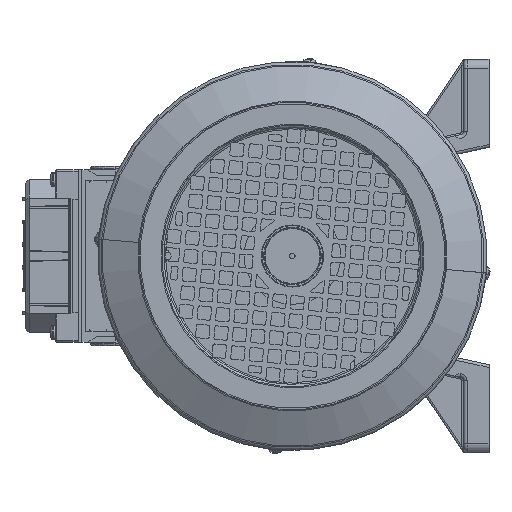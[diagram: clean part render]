
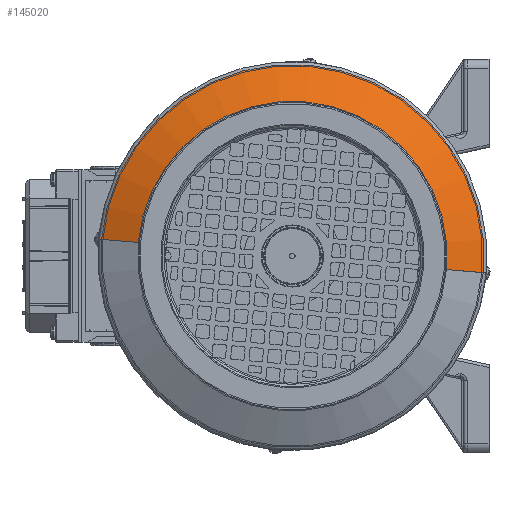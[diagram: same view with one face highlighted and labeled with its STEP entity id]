
A CAD part, left-side view. The second image highlights one B-rep face of the part: STEP entity #145020.
In plain terms, the highlighted conical face has half-angle 64 degrees and reference radius 109.115 mm.
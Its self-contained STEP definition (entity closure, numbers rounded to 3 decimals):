
#4429 = CONICAL_SURFACE ( 'NONE', #76793, 109.115, 1.117 ) ;
#5651 = CARTESIAN_POINT ( 'NONE',  ( 0., 10.542, 0. ) ) ;
#6416 = ORIENTED_EDGE ( 'NONE', *, *, #101948, .T. ) ;
#9227 = ORIENTED_EDGE ( 'NONE', *, *, #51879, .F. ) ;
#16903 = DIRECTION ( 'NONE',  ( 0., 1., 0. ) ) ;
#20602 = DIRECTION ( 'NONE',  ( -0.899, 0.438, 0. ) ) ;
#20919 = CARTESIAN_POINT ( 'NONE',  ( 0., 10.542, 0. ) ) ;
#24056 = VERTEX_POINT ( 'NONE', #74928 ) ;
#24820 = VECTOR ( 'NONE', #29874, 1000. ) ;
#28752 = VERTEX_POINT ( 'NONE', #126599 ) ;
#29874 = DIRECTION ( 'NONE',  ( 0.899, 0.438, 0. ) ) ;
#32196 = DIRECTION ( 'NONE',  ( -1., 0., 0. ) ) ;
#35795 = CARTESIAN_POINT ( 'NONE',  ( 0., 0.304, 0. ) ) ;
#36733 = VERTEX_POINT ( 'NONE', #50456 ) ;
#40996 = CARTESIAN_POINT ( 'NONE',  ( 109.115, 10.542, 0. ) ) ;
#45965 = VECTOR ( 'NONE', #20602, 1000. ) ;
#46993 = DIRECTION ( 'NONE',  ( -1., 0., 0. ) ) ;
#50456 = CARTESIAN_POINT ( 'NONE',  ( -88.123, 0.304, 0. ) ) ;
#50728 = VERTEX_POINT ( 'NONE', #40996 ) ;
#51879 = EDGE_CURVE ( 'NONE', #36733, #28752, #105568, .T. ) ;
#58065 = LINE ( 'NONE', #130288, #24820 ) ;
#60727 = CIRCLE ( 'NONE', #132729, 88.123 ) ;
#61361 = EDGE_CURVE ( 'NONE', #28752, #50728, #70452, .T. ) ;
#61954 = DIRECTION ( 'NONE',  ( -1., 0., 0. ) ) ;
#70452 = CIRCLE ( 'NONE', #101005, 109.115 ) ;
#74928 = CARTESIAN_POINT ( 'NONE',  ( 88.123, 0.304, 0. ) ) ;
#76793 = AXIS2_PLACEMENT_3D ( 'NONE', #5651, #16903, #61954 ) ;
#92451 = EDGE_CURVE ( 'NONE', #36733, #24056, #60727, .T. ) ;
#99273 = DIRECTION ( 'NONE',  ( 0., 1., 0. ) ) ;
#101005 = AXIS2_PLACEMENT_3D ( 'NONE', #20919, #99273, #32196 ) ;
#101948 = EDGE_CURVE ( 'NONE', #24056, #50728, #58065, .T. ) ;
#105568 = LINE ( 'NONE', #121500, #45965 ) ;
#114105 = DIRECTION ( 'NONE',  ( 0., 1., 0. ) ) ;
#116362 = ORIENTED_EDGE ( 'NONE', *, *, #92451, .T. ) ;
#121500 = CARTESIAN_POINT ( 'NONE',  ( -109.115, 10.542, 0. ) ) ;
#123593 = FACE_OUTER_BOUND ( 'NONE', #135758, .T. ) ;
#125412 = ORIENTED_EDGE ( 'NONE', *, *, #61361, .F. ) ;
#126599 = CARTESIAN_POINT ( 'NONE',  ( -109.115, 10.542, 0. ) ) ;
#130288 = CARTESIAN_POINT ( 'NONE',  ( 109.115, 10.542, 0. ) ) ;
#132729 = AXIS2_PLACEMENT_3D ( 'NONE', #35795, #114105, #46993 ) ;
#135758 = EDGE_LOOP ( 'NONE', ( #116362, #6416, #125412, #9227 ) ) ;
#145020 = ADVANCED_FACE ( 'NONE', ( #123593 ), #4429, .T. ) ;
